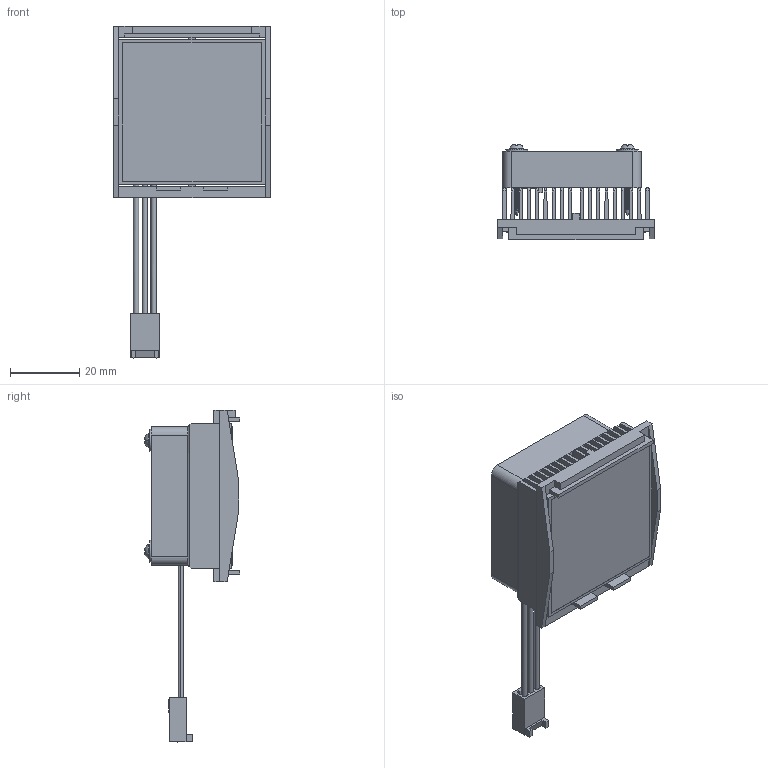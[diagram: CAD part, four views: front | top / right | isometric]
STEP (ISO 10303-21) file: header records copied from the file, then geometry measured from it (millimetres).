
FILE_DESCRIPTION (( 'STEP AP214' ), '1' );
FILE_NAME ('FI42.5-1.7+Y.STEP', '2023-03-08T17:32:53', ( '' ), ( '' ), 'SwSTEP 2.0', 'SolidWorks 2020', '' );
FILE_SCHEMA (( 'AUTOMOTIVE_DESIGN' ));
Length unit declared in the file: millimetre
Products named in the file (1): FI42.5-1.7+Y
Bounding box: 45.2 x 27.5 x 95.8 mm (x, y, z)
Volume: 21038 mm3; surface area: 35677.4 mm2
Topology: 12 solids, 12 shells, 1055 faces, 3071 edges, 2040 vertices
Faces by surface type: cylinder 454, plane 355, bspline 194, cone 36, sphere 8, torus 8
Entity records: 57443 total; most frequent: CARTESIAN_POINT 21595, ORIENTED_EDGE 6142, DIRECTION 3967, EDGE_CURVE 3071, VERTEX_POINT 2040, VECTOR 1495, LINE 1495, AXIS2_PLACEMENT_3D 1236
